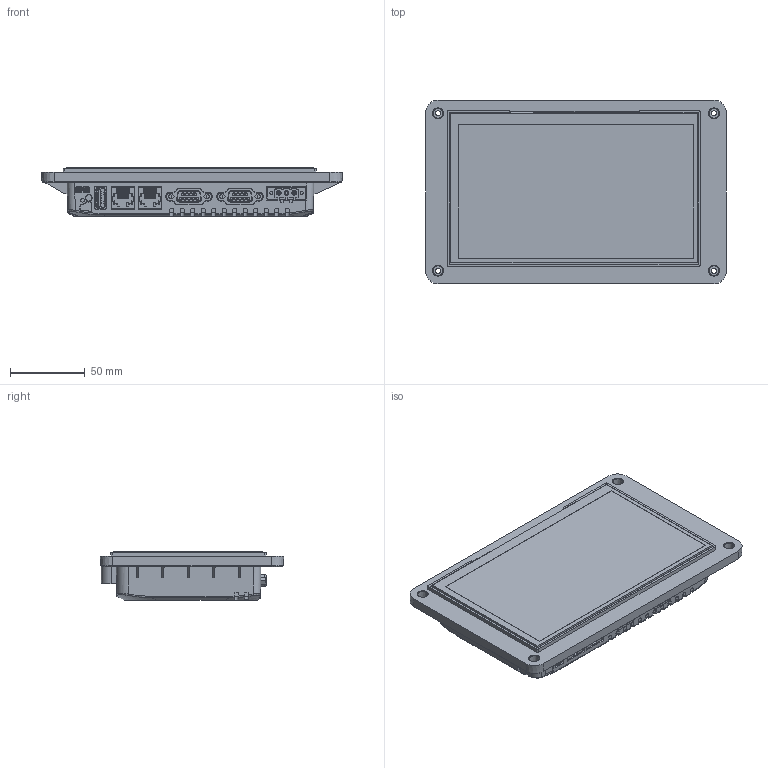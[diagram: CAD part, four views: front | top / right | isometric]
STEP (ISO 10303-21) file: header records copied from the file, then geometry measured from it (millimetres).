
FILE_DESCRIPTION((''),'2;1');
FILE_NAME('3D_TOPRN0700WD','2025-03-07T18:51:36',('BCKIM'),(''),'CREO PARAMETRIC BY PTC INC, 2024153','CREO PARAMETRIC BY PTC INC, 2024153','');
FILE_SCHEMA(('CONFIG_CONTROL_DESIGN'));
Products named in the file (1): 3D_TOPRN0700WD
Bounding box: 200.37 x 122.37 x 32.5 mm (x, y, z)
Volume: 561897.1 mm3; surface area: 91111.3 mm2
Topology: 1 solids, 5 shells, 3300 faces, 9310 edges, 6103 vertices
Faces by surface type: plane 2515, cylinder 506, cone 117, extrusion 85, bspline 61, torus 15, sphere 1
Entity records: 111478 total; most frequent: CARTESIAN_POINT 26415, ORIENTED_EDGE 18620, DIRECTION 16110, EDGE_CURVE 9310, VECTOR 7616, LINE 7531, VERTEX_POINT 6103, AXIS2_PLACEMENT_3D 4247
